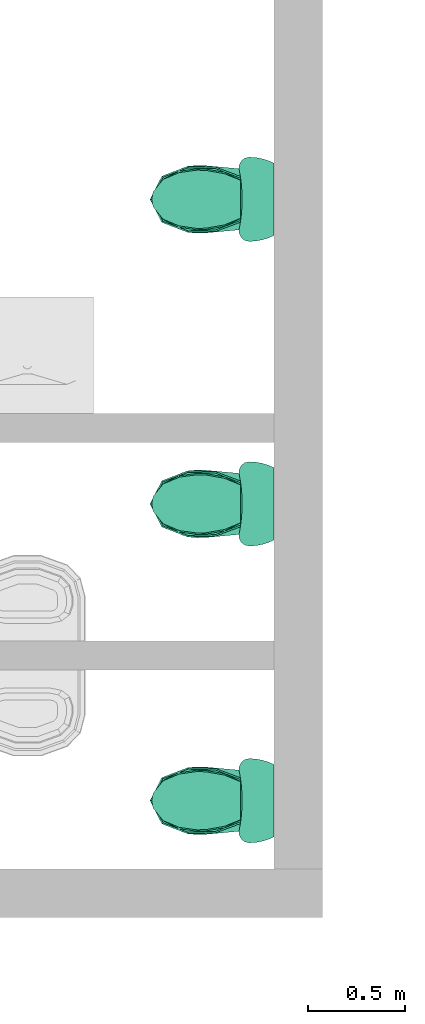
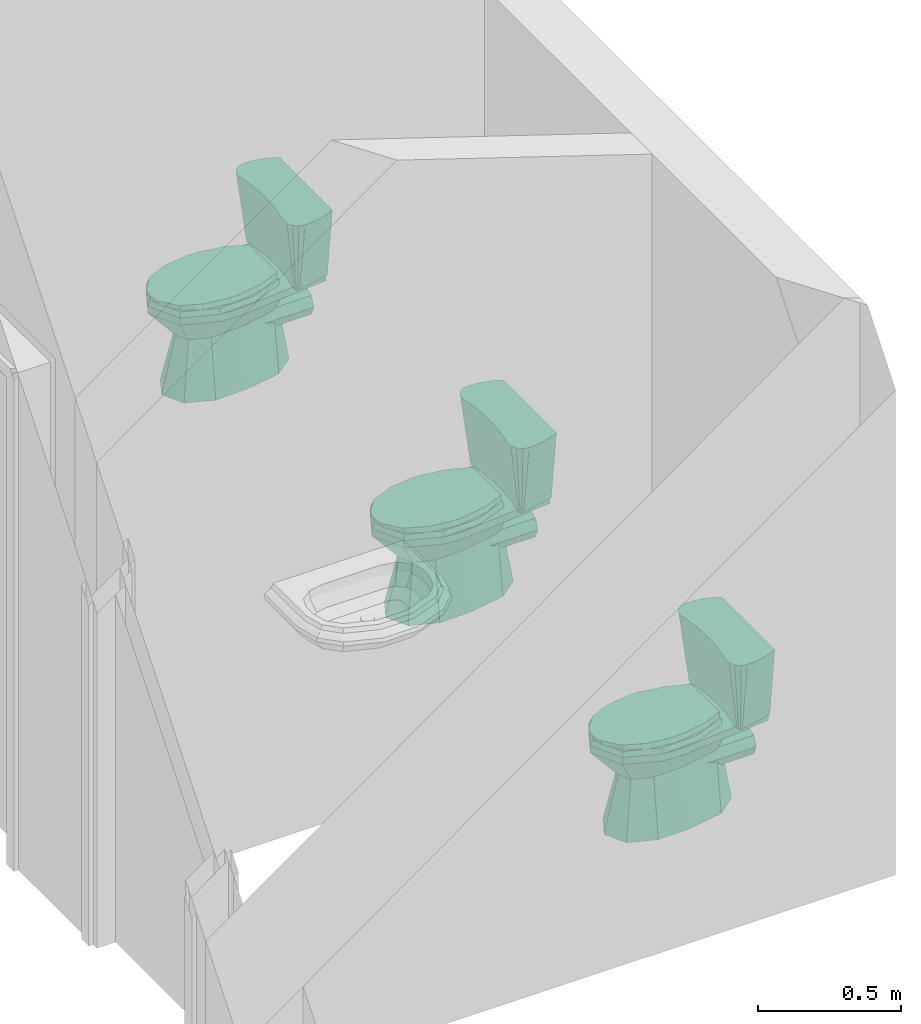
# One storey, part 36 of 48: 3 distribution flow elements.
"""IFC2X3 building model written with IfcOpenShell, lengths in millimetres."""

from ifc_helpers import new_model, entity, si_unit, converted_unit, derived_unit, money_unit, direction, frame, origin_with_axes, place, context, subcontext, project, spatial, open_shell, faceted_brep, surface_model, source, transform, mapped, type_object, element, save


model = new_model("IFC2X3")

# Units and contexts
model_context = context("Model", 3, precision=0.01, world=origin_with_axes(), true_north=direction((0.0, 1.0)))
body_context = subcontext(model_context, "Body", "Model", "MODEL_VIEW")
ifc_project = project(units=[si_unit("LENGTHUNIT", "METRE", prefix="MILLI"), si_unit("AREAUNIT", "SQUARE_METRE"), si_unit("VOLUMEUNIT", "CUBIC_METRE"), converted_unit("PLANEANGLEUNIT", "DEGREE", entity("IfcPlaneAngleMeasure", 0.0174532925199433), si_unit("PLANEANGLEUNIT", "RADIAN"), dimensions=[0, 0, 0, 0, 0, 0, 0]), money_unit("USD"), converted_unit("TIMEUNIT", "Year", entity("IfcTimeMeasure", 31557600.0), si_unit("TIMEUNIT", "SECOND"), dimensions=[0, 0, 1, 0, 0, 0, 0]), si_unit("MASSUNIT", "GRAM", prefix="KILO"), si_unit("THERMODYNAMICTEMPERATUREUNIT", "DEGREE_CELSIUS"), si_unit("LUMINOUSINTENSITYUNIT", "LUMEN"), si_unit("ENERGYUNIT", "JOULE", prefix="MEGA"), derived_unit("THERMALCONDUCTANCEUNIT", [(si_unit("POWERUNIT", "WATT"), 1), (si_unit("LENGTHUNIT", "METRE"), -1), (si_unit("THERMODYNAMICTEMPERATUREUNIT", "KELVIN"), -1)]), derived_unit("SPECIFICHEATCAPACITYUNIT", [(si_unit("ENERGYUNIT", "JOULE"), 1), (si_unit("MASSUNIT", "GRAM", prefix="KILO"), -1), (si_unit("THERMODYNAMICTEMPERATUREUNIT", "KELVIN"), -1)]), derived_unit("MASSDENSITYUNIT", [(si_unit("MASSUNIT", "GRAM", prefix="KILO"), 1), (si_unit("VOLUMEUNIT", "CUBIC_METRE"), -1)])], contexts=[model_context])

# Site, building, storey
site_placement = place(None, origin_with_axes())
site = spatial("IfcSite", under=ifc_project, at=site_placement, Name="Site", CompositionType="ELEMENT")
building_placement = place(site_placement, origin_with_axes())
building = spatial("IfcBuilding", under=site, at=building_placement, Name="Building", CompositionType="ELEMENT")
storey_placement = place(building_placement, frame((0.0, 0.0, 3300.0), z_axis=(0.0, 0.0, 1.0), x_axis=(1.0, 0.0, 0.0)))
storey = spatial("IfcBuildingStorey", under=building, at=storey_placement, Name="1 ETG", CompositionType="ELEMENT", Elevation=3300.0)

# Distribution flow elements
valve_type = type_object("IfcValveType", Name="WC", PredefinedType="USERDEFINED")
shared_shape = source(origin_with_axes(), body_context, "Body", "SurfaceModel", [
    faceted_brep([(-40.30508652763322, -205.7142857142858, 245.4332916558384), (-57.0, -205.7142857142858, 205.1282051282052), (-40.30508652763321, -205.7142857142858, 164.823118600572), (0.0, -205.7142857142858, 148.1282051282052), (40.30508652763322, -205.7142857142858, 164.823118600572), (57.00000000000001, -205.7142857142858, 205.1282051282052), (40.30508652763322, -205.7142857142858, 245.4332916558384), (0.0, -205.7142857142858, 262.1282051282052), (-40.30508652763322, 0.0, 245.4332916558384), (-57.0, 0.0, 205.1282051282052), (-40.30508652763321, 0.0, 164.823118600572), (0.0, 0.0, 148.1282051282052), (40.30508652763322, 0.0, 164.823118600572), (57.00000000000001, 0.0, 205.1282051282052), (40.30508652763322, 0.0, 245.4332916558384), (0.0, 0.0, 262.1282051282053)], [[[0, 1, 2, 3, 4, 5, 6, 7]], [[0, 8, 9, 1]], [[1, 9, 10, 2]], [[2, 10, 11, 3]], [[3, 11, 12, 4]], [[4, 12, 13, 5]], [[5, 13, 14, 6]], [[6, 14, 15, 7]], [[7, 15, 8, 0]], [[8, 15, 14, 13, 12, 11, 10, 9]]]),
    surface_model("IfcShellBasedSurfaceModel", [(-84.12941176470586, -541.2264773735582, 0.0), (-75.02254901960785, -425.689157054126, 235.8974358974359), (-123.3490196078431, -435.6917834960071, 0.0), (-47.80882352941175, -502.9639041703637, 235.8974358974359), (-71.04803921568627, -309.5589707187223, 235.8974358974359), (-120.4490196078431, -307.7678793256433, 0.0), (-95.01078431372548, -164.0364862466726, 0.0), (-31.65098039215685, -85.44312333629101, 0.0), (31.65098039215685, -85.44312333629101, 0.0), (95.01078431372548, -164.0364862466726, 0.0), (120.4490196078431, -307.7678793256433, 0.0), (123.3490196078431, -435.6917834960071, 0.0), (84.12941176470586, -541.2264773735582, 0.0), (0.0, -584.3319254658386, 0.0), (-41.58039215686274, -153.6, 235.8974358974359), (-13.7156862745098, -119.9417923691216, 235.8974358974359), (13.7156862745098, -119.9417923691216, 235.8974358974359), (41.58039215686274, -153.6, 235.8974358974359), (71.04803921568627, -309.5589707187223, 235.8974358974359), (75.02254901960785, -425.689157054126, 235.8974358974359), (47.80882352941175, -502.9639041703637, 235.8974358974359), (0.0, -527.4599467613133, 235.8974358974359)], [open_shell([[[0, 1, 2]], [[0, 3, 1]], [[2, 1, 4]], [[0, 2, 5, 6, 7, 8, 9, 10, 11, 12, 13]], [[13, 3, 0]], [[2, 4, 5]], [[5, 14, 6]], [[6, 15, 7]], [[7, 15, 16, 8]], [[8, 17, 9]], [[9, 18, 10]], [[10, 19, 11]], [[11, 20, 12]], [[12, 21, 13]], [[13, 21, 3]], [[5, 4, 14]], [[6, 14, 15]], [[8, 16, 17]], [[9, 17, 18]], [[10, 18, 19]], [[11, 19, 20]], [[12, 20, 21]]])]),
    surface_model("IfcShellBasedSurfaceModel", [(-47.80882352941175, -502.9639041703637, 235.8974358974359), (-170.6529411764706, -445.4820230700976, 369.2307692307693), (-75.02254901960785, -425.689157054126, 235.8974358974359), (-119.6803921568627, -578.6781188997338, 369.2307692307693), (-164.9843137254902, -294.0524578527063, 369.2307692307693), (-71.04803921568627, -309.5589707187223, 235.8974358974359), (-41.58039215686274, -153.6, 235.8974358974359), (-13.7156862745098, -119.9417923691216, 235.8974358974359), (13.7156862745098, -119.9417923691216, 235.8974358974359), (41.58039215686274, -153.6, 235.8974358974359), (71.04803921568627, -309.5589707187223, 235.8974358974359), (75.02254901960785, -425.689157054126, 235.8974358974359), (47.80882352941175, -502.9639041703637, 235.8974358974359), (0.0, -527.4599467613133, 235.8974358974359), (-101.8950980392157, -139.959538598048, 369.2307692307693), (-29.25392156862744, -84.95815439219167, 369.2307692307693), (29.25392156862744, -84.95815439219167, 369.2307692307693), (101.8950980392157, -139.959538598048, 369.2307692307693), (164.9843137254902, -294.051322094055, 369.2307692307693), (170.6529411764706, -445.4820230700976, 369.2307692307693), (119.6803921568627, -578.6781188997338, 369.2307692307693), (0.0, -640.0, 369.2307692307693)], [open_shell([[[0, 1, 2]], [[0, 3, 1]], [[2, 1, 4]], [[0, 2, 5, 6, 7, 8, 9, 10, 11, 12, 13]], [[13, 3, 0]], [[2, 4, 5]], [[5, 14, 6]], [[6, 15, 7]], [[7, 15, 16, 8]], [[8, 17, 9]], [[9, 18, 10]], [[10, 19, 11]], [[11, 20, 12]], [[12, 21, 13]], [[13, 21, 3]], [[5, 4, 14]], [[6, 14, 15]], [[8, 16, 17]], [[9, 17, 18]], [[10, 18, 19]], [[11, 19, 20]], [[12, 20, 21]]])]),
    surface_model("IfcShellBasedSurfaceModel", [(-45.41838235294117, -515.3940102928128, 276.923076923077), (-162.1202941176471, -470.5581430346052, 369.2307692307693), (-71.27142156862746, -455.1197075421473, 276.923076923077), (-113.6963725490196, -574.4510977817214, 369.2307692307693), (-156.7350980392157, -352.4430821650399, 369.2307692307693), (-67.49563725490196, -364.5381622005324, 276.923076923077), (-39.50137254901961, -242.890165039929, 276.923076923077), (-13.02990196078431, -216.6367630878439, 276.923076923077), (13.02990196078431, -216.6367630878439, 276.923076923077), (39.50137254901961, -242.890165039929, 276.923076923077), (67.49563725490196, -364.5381622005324, 276.923076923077), (71.27142156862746, -455.1197075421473, 276.923076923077), (45.41838235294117, -515.3940102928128, 276.923076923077), (0.0, -534.5009235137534, 276.923076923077), (-96.8003431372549, -232.2506051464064, 369.2307692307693), (-27.79122549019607, -189.3495254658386, 369.2307692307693), (27.79122549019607, -189.3495254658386, 369.2307692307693), (96.8003431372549, -232.2506051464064, 369.2307692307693), (156.7350980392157, -352.4421962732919, 369.2307692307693), (162.1202941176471, -470.5581430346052, 369.2307692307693), (113.6963725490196, -574.4510977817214, 369.2307692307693), (0.0, -622.282165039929, 369.2307692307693)], [open_shell([[[0, 1, 2]], [[0, 3, 1]], [[2, 1, 4]], [[0, 2, 5, 6, 7, 8, 9, 10, 11, 12, 13]], [[13, 3, 0]], [[2, 4, 5]], [[5, 14, 6]], [[6, 15, 7]], [[7, 15, 16, 8]], [[8, 17, 9]], [[9, 18, 10]], [[10, 19, 11]], [[11, 20, 12]], [[12, 21, 13]], [[13, 21, 3]], [[5, 4, 14]], [[6, 14, 15]], [[8, 16, 17]], [[9, 17, 18]], [[10, 18, 19]], [[11, 19, 20]], [[12, 20, 21]]])]),
    faceted_brep([(175.0058823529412, -398.0504702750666, 369.2307692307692), (170.6529411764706, -445.4820230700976, 369.2307692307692), (119.6803921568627, -578.6781188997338, 369.2307692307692), (0.0, -640.0, 369.2307692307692), (-119.6803921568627, -578.6781188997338, 369.2307692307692), (-170.6529411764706, -445.4820230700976, 369.2307692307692), (-175.0058823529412, -398.0504702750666, 369.2307692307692), (-173.5294117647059, -350.3815439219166, 369.2307692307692), (-141.1235294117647, 0.002271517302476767, 369.2307692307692), (141.121568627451, 0.002271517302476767, 369.2307692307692), (173.5294117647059, -350.3815439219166, 369.2307692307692), (-83.77627450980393, -540.2867506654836, 369.2307692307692), (0.0, -583.21206743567, 369.2307692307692), (83.77627450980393, -540.2867506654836, 369.2307692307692), (119.4570588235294, -447.0494835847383, 369.2307692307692), (122.5041176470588, -413.8473966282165, 369.2307692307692), (121.4705882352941, -380.4791481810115, 369.2307692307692), (98.78509803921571, -230.6142040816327, 369.2307692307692), (-98.78647058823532, -230.6142040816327, 369.2307692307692), (-121.4705882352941, -380.4791481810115, 369.2307692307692), (-122.5041176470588, -413.8473966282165, 369.2307692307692), (-119.4570588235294, -447.0494835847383, 369.2307692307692), (175.0058823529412, -398.0504702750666, 400.0), (170.6529411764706, -445.4820230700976, 400.0), (119.6803921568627, -578.6781188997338, 400.0), (0.0, -640.0, 400.0), (-119.6803921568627, -578.6781188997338, 400.0), (-170.6529411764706, -445.4820230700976, 400.0), (-175.0058823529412, -398.0504702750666, 400.0), (-173.5294117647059, -350.3815439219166, 400.0), (-141.1235294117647, 0.002271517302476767, 400.0), (141.121568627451, 0.002271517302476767, 400.0), (173.5294117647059, -350.3815439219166, 400.0), (0.0, -583.21206743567, 400.0), (-83.77627450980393, -540.2867506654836, 400.0), (83.77627450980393, -540.2867506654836, 400.0), (119.4570588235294, -447.0494835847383, 400.0), (122.5041176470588, -413.8473966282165, 400.0), (121.4705882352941, -380.4791481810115, 400.0), (98.78509803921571, -230.6142040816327, 400.0), (-98.78647058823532, -230.6142040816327, 400.0), (-121.4705882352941, -380.4791481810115, 400.0), (-122.5041176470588, -413.8473966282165, 400.0), (-119.4570588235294, -447.0494835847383, 400.0)], [[[0, 1, 2, 3, 4, 5, 6, 7, 8, 9, 10], [11, 12, 13, 14, 15, 16, 17, 18, 19, 20, 21]], [[22, 23, 1, 0]], [[23, 24, 2, 1]], [[24, 25, 3, 2]], [[25, 26, 4, 3]], [[26, 27, 5, 4]], [[27, 28, 6, 5]], [[28, 29, 7, 6]], [[29, 30, 8, 7]], [[30, 31, 9, 8]], [[31, 32, 10, 9]], [[32, 22, 0, 10]], [[33, 12, 11, 34]], [[35, 13, 12, 33]], [[36, 14, 13, 35]], [[37, 15, 14, 36]], [[38, 16, 15, 37]], [[39, 17, 16, 38]], [[40, 18, 17, 39]], [[41, 19, 18, 40]], [[42, 20, 19, 41]], [[43, 21, 20, 42]], [[34, 11, 21, 43]], [[31, 30, 29, 28, 27, 26, 25, 24, 23, 22, 32], [40, 39, 38, 37, 36, 35, 33, 34, 43, 42, 41]]]),
    faceted_brep([(-170.4738719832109, -445.482713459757, 400.0), (-166.4663168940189, -302.2015893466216, 400.0), (-118.2121021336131, -172.9329743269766, 400.0), (118.2121021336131, -172.9329743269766, 400.0), (166.4663168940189, -302.2015893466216, 400.0), (170.4738719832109, -445.482713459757, 400.0), (119.5548093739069, -578.6783365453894, 400.0), (0.0, -640.0, 400.0), (-119.5548093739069, -578.6783365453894, 400.0), (-87.07689659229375, -470.8529844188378, 400.0), (-76.48880040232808, -500.6600804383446, 400.0), (-62.0685687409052, -525.0585284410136, 400.0), (-44.26109835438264, -542.1791505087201, 400.0), (-23.02579943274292, -553.0312015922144, 400.0), (0.0, -556.7479615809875, 400.0), (23.02579943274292, -553.0312015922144, 400.0), (44.26109835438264, -542.1791505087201, 400.0), (62.06856874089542, -525.0585284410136, 400.0), (76.48880040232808, -500.6600804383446, 400.0), (87.07689659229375, -470.8529844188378, 400.0), (94.51085540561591, -436.8872036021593, 400.0), (97.71606496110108, -402.0552291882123, 400.0), (96.61425296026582, -366.5633495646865, 400.0), (90.99294096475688, -327.7648838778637, 400.0), (81.32895397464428, -289.5296252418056, 400.0), (68.75412876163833, -255.390084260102, 400.0), (-68.75448552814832, -255.390084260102, 400.0), (-81.3288631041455, -289.5292657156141, 400.0), (-90.99294096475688, -327.7648838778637, 400.0), (-96.61425296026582, -366.5633495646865, 400.0), (-97.71606496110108, -402.0552291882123, 400.0), (-94.51085540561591, -436.8872036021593, 400.0), (-158.5902763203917, -302.7808242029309, 420.0000000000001), (-108.940468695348, -172.9329743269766, 420.0000000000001), (108.940468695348, -172.9329743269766, 420.0000000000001), (158.5902763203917, -302.7808242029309, 420.0000000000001), (162.8034977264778, -443.8937927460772, 420.0000000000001), (113.7912556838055, -572.5997778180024, 420.0000000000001), (0.0, -630.9650719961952, 420.0000000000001), (-113.7912556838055, -572.5997778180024, 420.0000000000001), (-162.8034977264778, -443.8937927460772, 420.0000000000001), (-76.48880040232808, -500.6600804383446, 420.0000000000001), (-87.07689659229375, -470.8529844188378, 420.0000000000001), (-62.0685687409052, -525.0585284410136, 420.0000000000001), (-44.26109835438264, -542.1791505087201, 420.0000000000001), (-23.02579943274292, -553.0312015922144, 420.0000000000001), (0.0, -556.7479615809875, 420.0000000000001), (23.02579943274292, -553.0312015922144, 420.0000000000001), (44.26109835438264, -542.1791505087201, 420.0000000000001), (62.06856874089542, -525.0585284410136, 420.0000000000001), (76.48880040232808, -500.6600804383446, 420.0000000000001), (87.07689659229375, -470.8529844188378, 420.0000000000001), (94.51085540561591, -436.8872036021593, 420.0000000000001), (97.71606496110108, -402.0552291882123, 420.0000000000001), (96.61425296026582, -366.5633495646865, 420.0000000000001), (90.99294096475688, -327.7648838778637, 420.0000000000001), (81.32895397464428, -289.5296252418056, 420.0000000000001), (68.75412876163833, -255.390084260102, 420.0000000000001), (-68.75448552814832, -255.390084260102, 420.0000000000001), (-81.3288631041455, -289.5292657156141, 420.0000000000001), (-90.99294096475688, -327.7648838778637, 420.0000000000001), (-96.61425296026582, -366.5633495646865, 420.0000000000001), (-97.71606496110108, -402.0552291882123, 420.0000000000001), (-94.51085540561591, -436.8872036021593, 420.0000000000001)], [[[0, 1, 2, 3, 4, 5, 6, 7, 8], [9, 10, 11, 12, 13, 14, 15, 16, 17, 18, 19, 20, 21, 22, 23, 24, 25, 26, 27, 28, 29, 30, 31]], [[0, 32, 1]], [[1, 33, 2]], [[3, 2, 33, 34]], [[3, 35, 4]], [[4, 36, 5]], [[5, 37, 6]], [[6, 38, 7]], [[7, 39, 8]], [[8, 40, 0]], [[41, 10, 9, 42]], [[43, 11, 10, 41]], [[44, 12, 11, 43]], [[45, 13, 12, 44]], [[46, 14, 13, 45]], [[47, 15, 14, 46]], [[48, 16, 15, 47]], [[49, 17, 16, 48]], [[50, 18, 17, 49]], [[51, 19, 18, 50]], [[52, 20, 19, 51]], [[53, 21, 20, 52]], [[54, 22, 21, 53]], [[55, 23, 22, 54]], [[56, 24, 23, 55]], [[57, 25, 24, 56]], [[58, 26, 25, 57]], [[59, 27, 26, 58]], [[60, 28, 27, 59]], [[61, 29, 28, 60]], [[62, 30, 29, 61]], [[63, 31, 30, 62]], [[42, 9, 31, 63]], [[0, 40, 32]], [[1, 32, 33]], [[34, 33, 32, 40, 39, 38, 37, 36, 35], [60, 59, 58, 57, 56, 55, 54, 53, 52, 51, 50, 49, 48, 47, 46, 45, 44, 43, 41, 42, 63, 62, 61]], [[3, 34, 35]], [[4, 35, 36]], [[5, 36, 37]], [[6, 37, 38]], [[7, 38, 39]], [[8, 39, 40]]]),
    faceted_brep([(107.5993284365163, -565.0492811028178, 420.0000000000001), (37.93662119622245, -624.1357794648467, 440.0000000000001), (39.85813221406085, -615.7891187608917, 420.0000000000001), (102.412130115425, -572.5997778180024, 440.0000000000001), (0.0, -630.9650719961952, 440.0000000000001), (0.0, -622.9636806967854, 420.0000000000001), (-39.85813221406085, -615.7891187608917, 420.0000000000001), (-107.5993284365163, -565.0492811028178, 420.0000000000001), (-144.3513116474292, -491.7260985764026, 420.0000000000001), (-157.3400209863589, -398.0513290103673, 420.0000000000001), (-156.01259181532, -350.3825718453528, 420.0000000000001), (-139.3844700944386, -255.2506291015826, 420.0000000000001), (-99.17339219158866, -172.9329743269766, 420.0000000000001), (99.17339219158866, -172.9329743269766, 420.0000000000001), (139.3844700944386, -255.2506291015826, 420.0000000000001), (156.01259181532, -350.3825718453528, 420.0000000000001), (157.3400209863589, -398.0513290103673, 420.0000000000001), (144.3504302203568, -491.7260985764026, 420.0000000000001), (137.6912486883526, -488.8969338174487, 440.0000000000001), (150.3317943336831, -397.7344534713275, 440.0000000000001), (149.0405036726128, -351.3456917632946, 440.0000000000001), (132.0192654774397, -255.5152599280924, 440.0000000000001), (98.04642182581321, -172.9329743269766, 440.0000000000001), (-98.04642182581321, -172.9329743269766, 440.0000000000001), (-132.0192654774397, -255.5152599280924, 440.0000000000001), (-149.0405036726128, -351.3456917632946, 440.0000000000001), (-150.3317943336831, -397.7344534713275, 440.0000000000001), (-137.6912486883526, -488.8969338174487, 440.0000000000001), (-102.412130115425, -572.5997778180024, 440.0000000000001), (-37.93662119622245, -624.1357794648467, 440.0000000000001)], [[[0, 1, 2]], [[0, 3, 1]], [[2, 1, 4]], [[0, 2, 5, 6, 7, 8, 9, 10, 11, 12, 13, 14, 15, 16, 17]], [[17, 3, 0]], [[3, 18, 19, 20, 21, 22, 23, 24, 25, 26, 27, 28, 29, 4, 1]], [[2, 4, 5]], [[5, 29, 6]], [[6, 28, 7]], [[7, 27, 8]], [[8, 26, 9]], [[9, 25, 10]], [[10, 24, 11]], [[11, 23, 12]], [[12, 23, 22, 13]], [[13, 21, 14]], [[14, 20, 15]], [[15, 19, 16]], [[16, 18, 17]], [[17, 18, 3]], [[16, 19, 18]], [[15, 20, 19]], [[14, 21, 20]], [[13, 22, 21]], [[11, 24, 23]], [[10, 25, 24]], [[9, 26, 25]], [[8, 27, 26]], [[7, 28, 27]], [[6, 29, 28]], [[5, 4, 29]]]),
    faceted_brep([(-0.001, -126.7509859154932, 400.0), (-38.86899999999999, -165.3933112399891, 700.0), (-40.757, -127.7727036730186, 400.0), (-0.001, -164.4195802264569, 700.0), (-77.64, -168.3115051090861, 700.0), (-81.40999999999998, -130.8328583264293, 400.0), (-121.859, -135.925451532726, 400.0), (-162.002, -143.0364871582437, 400.0), (-168.528, -142.899524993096, 400.0), (-174.366, -139.9803314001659, 400.0), (-178.389, -134.8427506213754, 400.0), (-179.822, -128.4765092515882, 400.0), (-172.647, -96.35738193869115, 400.0), (-165.467, -64.23825462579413, 400.0), (-158.288, -32.11912731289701, 400.0), (-151.113, 0.0, 400.0), (151.111, 0.0, 400.0), (158.288, -32.11912731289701, 400.0), (165.466, -64.23825462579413, 400.0), (172.643, -96.35738193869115, 400.0), (179.821, -128.4765092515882, 400.0), (178.387, -134.8427506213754, 400.0), (174.364, -139.9803314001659, 400.0), (168.526, -142.899524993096, 400.0), (162.0, -143.0364871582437, 400.0), (121.857, -135.925451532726, 400.0), (81.40799999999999, -130.8328583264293, 400.0), (40.755, -127.7727036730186, 400.0), (38.86799999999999, -165.3933112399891, 700.0), (77.638, -168.3115051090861, 700.0), (116.214, -173.1681634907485, 700.0), (154.499, -179.9502899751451, 700.0), (177.569, -179.4664236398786, 700.0), (198.207, -169.1472742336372, 700.0), (212.431, -150.9822921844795, 700.0), (217.499, -128.4765092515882, 700.0), (215.545, -95.22269538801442, 700.0), (209.709, -62.42675504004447, 700.0), (200.072, -30.53956365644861, 700.0), (186.767, 0.0, 700.0), (-186.769, 0.0, 700.0), (-200.074, -30.53956365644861, 700.0), (-209.711, -62.42675504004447, 700.0), (-215.547, -95.22269538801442, 700.0), (-217.501, -128.4765092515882, 700.0), (-212.433, -150.9822921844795, 700.0), (-198.209, -169.1472742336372, 700.0), (-177.571, -179.4664236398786, 700.0), (-154.501, -179.9502899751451, 700.0), (-116.216, -173.1681634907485, 700.0)], [[[0, 1, 2]], [[0, 3, 1]], [[2, 1, 4]], [[0, 2, 5, 6, 7, 8, 9, 10, 11, 12, 13, 14, 15, 16, 17, 18, 19, 20, 21, 22, 23, 24, 25, 26, 27]], [[27, 3, 0]], [[3, 28, 29, 30, 31, 32, 33, 34, 35, 36, 37, 38, 39, 40, 41, 42, 43, 44, 45, 46, 47, 48, 49, 4, 1]], [[2, 4, 5]], [[5, 49, 6]], [[6, 48, 7]], [[7, 47, 8]], [[8, 46, 9]], [[9, 45, 10]], [[10, 44, 11]], [[11, 43, 12]], [[12, 42, 13]], [[13, 41, 14]], [[14, 40, 15]], [[15, 40, 39, 16]], [[16, 38, 17]], [[17, 37, 18]], [[18, 36, 19]], [[19, 35, 20]], [[20, 34, 21]], [[21, 33, 22]], [[22, 32, 23]], [[23, 31, 24]], [[24, 30, 25]], [[25, 29, 26]], [[26, 28, 27]], [[27, 28, 3]], [[26, 29, 28]], [[25, 30, 29]], [[24, 31, 30]], [[23, 32, 31]], [[22, 33, 32]], [[21, 34, 33]], [[20, 35, 34]], [[19, 36, 35]], [[18, 37, 36]], [[17, 38, 37]], [[16, 39, 38]], [[14, 41, 40]], [[13, 42, 41]], [[12, 43, 42]], [[11, 44, 43]], [[10, 45, 44]], [[9, 46, 45]], [[8, 47, 46]], [[7, 48, 47]], [[6, 49, 48]], [[5, 4, 49]]]),
])
for number, where, z_axis, x_axis, name in (
    (1, (11275.00008534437, 26208.03719769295, 100.0000000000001), (0.0, 0.0, 1.0), (0.0, -1.0, 0.0), "FU - 001"),
    (2, (11275.00029951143, 24676.34716261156, 100.0000000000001), (0.0, 0.0, 1.0), (0.0, -1.0, 0.0), "FU - 001"),
    (3, (11275.00020445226, 27779.85318703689, 100.0000000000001), (0.0, 0.0, 1.0), (1.359925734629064e-07, -0.9999999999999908, 0.0), "FU - 001"),
):
    element("IfcDistributionFlowElement", number, at=place(storey_placement, frame(where, z_axis=z_axis, x_axis=x_axis)), inside=storey, type_object=valve_type, Name=name, ObjectType="Distribution Flow Element", context=body_context, shape_type="MappedRepresentation", body=[
        mapped(shared_shape, transform((0.0, 0.0, 0.0))),
    ])

save(model, "model.ifc")
